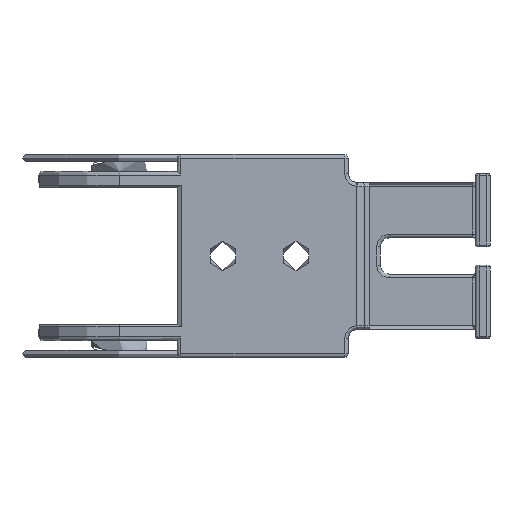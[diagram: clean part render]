
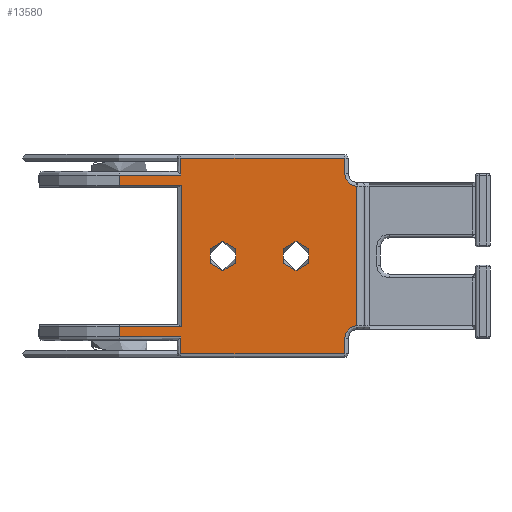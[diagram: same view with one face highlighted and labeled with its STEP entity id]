
A CAD part, front view. The second image highlights one B-rep face of the part: STEP entity #13580.
In plain terms, the highlighted planar face has unit normal (0, -1, 0).
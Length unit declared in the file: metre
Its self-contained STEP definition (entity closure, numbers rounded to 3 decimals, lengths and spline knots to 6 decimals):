
#333=CARTESIAN_POINT('',(-0.02226,-0.007565,0.040494));
#334=VERTEX_POINT('',#333);
#508=CARTESIAN_POINT('',(0.003645,-0.007565,0.041741));
#509=VERTEX_POINT('',#508);
#534=CARTESIAN_POINT('',(0.003645,-0.007565,0.056947));
#535=VERTEX_POINT('',#534);
#538=CARTESIAN_POINT('',(0.003645,-0.007565,0.041844));
#539=DIRECTION('',(0.,0.,-1.));
#540=VECTOR('',#539,1.);
#541=LINE('',#538,#540);
#542=EDGE_CURVE('',#535,#509,#541,.T.);
#991=CARTESIAN_POINT('',(-0.01226,-0.007565,0.041844));
#992=DIRECTION('',(0.,1.,0.));
#993=DIRECTION('',(0.,0.,1.));
#994=AXIS2_PLACEMENT_3D('',#991,#992,#993);
#995=PLANE('',#994);
#4160=CARTESIAN_POINT('',(0.00234,-0.007565,0.040344));
#4161=VERTEX_POINT('',#4160);
#4172=CARTESIAN_POINT('',(0.00374,-0.007565,0.040344));
#4173=DIRECTION('',(0.,1.,0.));
#4174=DIRECTION('',(0.,0.,1.));
#4175=AXIS2_PLACEMENT_3D('',#4172,#4173,#4174);
#4176=CIRCLE('',#4175,0.0014);
#4177=EDGE_CURVE('',#4161,#509,#4176,.T.);
#4200=CARTESIAN_POINT('',(0.00234,-0.007565,0.038644));
#4201=VERTEX_POINT('',#4200);
#4213=CARTESIAN_POINT('',(0.00234,-0.007565,0.040344));
#4214=DIRECTION('',(0.,0.,1.));
#4215=VECTOR('',#4214,1.);
#4216=LINE('',#4213,#4215);
#4217=EDGE_CURVE('',#4201,#4161,#4216,.T.);
#4696=CARTESIAN_POINT('',(-0.01556,-0.007565,0.038644));
#4697=VERTEX_POINT('',#4696);
#4700=CARTESIAN_POINT('',(-0.01556,-0.007565,0.041844));
#4701=DIRECTION('',(0.,0.,-1.));
#4702=VECTOR('',#4701,1.);
#4703=LINE('',#4700,#4702);
#4704=CARTESIAN_POINT('',(-0.01556,-0.007565,0.040494));
#4705=VERTEX_POINT('',#4704);
#4706=EDGE_CURVE('',#4705,#4697,#4703,.T.);
#4757=CARTESIAN_POINT('',(-0.01226,-0.007565,0.038644));
#4758=DIRECTION('',(-1.,0.,0.));
#4759=VECTOR('',#4758,1.);
#4760=LINE('',#4757,#4759);
#4761=EDGE_CURVE('',#4201,#4697,#4760,.T.);
#11420=CARTESIAN_POINT('',(-0.01596,-0.007565,0.040494));
#11421=DIRECTION('',(-1.,0.,0.));
#11422=VECTOR('',#11421,1.);
#11423=LINE('',#11420,#11422);
#11424=EDGE_CURVE('',#4705,#334,#11423,.T.);
#12182=CARTESIAN_POINT('',(-0.01546,-0.007565,0.041594));
#12183=VERTEX_POINT('',#12182);
#12186=CARTESIAN_POINT('',(-0.01546,-0.007565,0.041844));
#12187=DIRECTION('',(0.,0.,-1.));
#12188=VECTOR('',#12187,1.);
#12189=LINE('',#12186,#12188);
#12190=CARTESIAN_POINT('',(-0.01546,-0.007565,0.057094));
#12191=VERTEX_POINT('',#12190);
#12192=EDGE_CURVE('',#12191,#12183,#12189,.T.);
#12223=CARTESIAN_POINT('',(-0.02226,-0.007565,0.057094));
#12224=VERTEX_POINT('',#12223);
#12236=CARTESIAN_POINT('',(-0.01226,-0.007565,0.057094));
#12237=DIRECTION('',(1.,0.,0.));
#12238=VECTOR('',#12237,1.);
#12239=LINE('',#12236,#12238);
#12240=EDGE_CURVE('',#12224,#12191,#12239,.T.);
#12294=CARTESIAN_POINT('',(-0.02226,-0.007565,0.060444));
#12295=DIRECTION('',(0.,0.,-1.));
#12296=VECTOR('',#12295,1.);
#12297=LINE('',#12294,#12296);
#12298=CARTESIAN_POINT('',(-0.02226,-0.007565,0.058194));
#12299=VERTEX_POINT('',#12298);
#12300=EDGE_CURVE('',#12299,#12224,#12297,.T.);
#12450=CARTESIAN_POINT('',(-0.02226,-0.007565,0.058194));
#12451=DIRECTION('',(1.,0.,0.));
#12452=VECTOR('',#12451,1.);
#12453=LINE('',#12450,#12452);
#12454=CARTESIAN_POINT('',(-0.01556,-0.007565,0.058194));
#12455=VERTEX_POINT('',#12454);
#12456=EDGE_CURVE('',#12299,#12455,#12453,.T.);
#12488=CARTESIAN_POINT('',(-0.01556,-0.007565,0.041844));
#12489=DIRECTION('',(0.,0.,1.));
#12490=VECTOR('',#12489,1.);
#12491=LINE('',#12488,#12490);
#12492=CARTESIAN_POINT('',(-0.01556,-0.007565,0.060044));
#12493=VERTEX_POINT('',#12492);
#12494=EDGE_CURVE('',#12455,#12493,#12491,.T.);
#12537=CARTESIAN_POINT('',(-0.01596,-0.007565,0.060044));
#12538=DIRECTION('',(1.,0.,0.));
#12539=VECTOR('',#12538,1.);
#12540=LINE('',#12537,#12539);
#12541=CARTESIAN_POINT('',(0.00234,-0.007565,0.060044));
#12542=VERTEX_POINT('',#12541);
#12543=EDGE_CURVE('',#12493,#12542,#12540,.T.);
#13388=CARTESIAN_POINT('',(-0.01096,-0.007565,0.049344));
#13389=DIRECTION('',(0.,1.,0.));
#13390=DIRECTION('',(0.,0.,1.));
#13391=AXIS2_PLACEMENT_3D('',#13388,#13389,#13390);
#13392=CIRCLE('',#13391,0.0016);
#13393=CARTESIAN_POINT('',(-0.01096,-0.007565,0.047744));
#13394=VERTEX_POINT('',#13393);
#13395=EDGE_CURVE('',#13394,#13394,#13392,.T.);
#13511=CARTESIAN_POINT('',(-0.00296,-0.007565,0.049344));
#13512=DIRECTION('',(0.,1.,0.));
#13513=DIRECTION('',(0.,0.,1.));
#13514=AXIS2_PLACEMENT_3D('',#13511,#13512,#13513);
#13515=CIRCLE('',#13514,0.0016);
#13516=CARTESIAN_POINT('',(-0.00296,-0.007565,0.047744));
#13517=VERTEX_POINT('',#13516);
#13518=EDGE_CURVE('',#13517,#13517,#13515,.T.);
#13531=ORIENTED_EDGE('',*,*,#13518,.T.);
#13532=EDGE_LOOP('',(#13531));
#13533=FACE_BOUND('',#13532,.T.);
#13534=ORIENTED_EDGE('',*,*,#13395,.T.);
#13535=EDGE_LOOP('',(#13534));
#13536=FACE_BOUND('',#13535,.T.);
#13537=ORIENTED_EDGE('',*,*,#12192,.T.);
#13538=CARTESIAN_POINT('',(-0.02226,-0.007565,0.041594));
#13539=DIRECTION('',(1.,0.,0.));
#13540=VECTOR('',#13539,1.);
#13541=LINE('',#13538,#13540);
#13542=CARTESIAN_POINT('',(-0.02226,-0.007565,0.041594));
#13543=VERTEX_POINT('',#13542);
#13544=EDGE_CURVE('',#13543,#12183,#13541,.T.);
#13545=ORIENTED_EDGE('',*,*,#13544,.F.);
#13546=CARTESIAN_POINT('',(-0.02226,-0.007565,0.041844));
#13547=DIRECTION('',(0.,0.,-1.));
#13548=VECTOR('',#13547,1.);
#13549=LINE('',#13546,#13548);
#13550=EDGE_CURVE('',#13543,#334,#13549,.T.);
#13551=ORIENTED_EDGE('',*,*,#13550,.T.);
#13552=ORIENTED_EDGE('',*,*,#11424,.F.);
#13553=ORIENTED_EDGE('',*,*,#4706,.T.);
#13554=ORIENTED_EDGE('',*,*,#4761,.F.);
#13555=ORIENTED_EDGE('',*,*,#4217,.T.);
#13556=ORIENTED_EDGE('',*,*,#4177,.T.);
#13557=ORIENTED_EDGE('',*,*,#542,.F.);
#13558=CARTESIAN_POINT('',(0.00374,-0.007565,0.058344));
#13559=DIRECTION('',(0.,1.,0.));
#13560=DIRECTION('',(0.,0.,1.));
#13561=AXIS2_PLACEMENT_3D('',#13558,#13559,#13560);
#13562=CIRCLE('',#13561,0.0014);
#13563=CARTESIAN_POINT('',(0.00234,-0.007565,0.058344));
#13564=VERTEX_POINT('',#13563);
#13565=EDGE_CURVE('',#535,#13564,#13562,.T.);
#13566=ORIENTED_EDGE('',*,*,#13565,.T.);
#13567=CARTESIAN_POINT('',(0.00234,-0.007565,0.060044));
#13568=DIRECTION('',(0.,0.,1.));
#13569=VECTOR('',#13568,1.);
#13570=LINE('',#13567,#13569);
#13571=EDGE_CURVE('',#13564,#12542,#13570,.T.);
#13572=ORIENTED_EDGE('',*,*,#13571,.T.);
#13573=ORIENTED_EDGE('',*,*,#12543,.F.);
#13574=ORIENTED_EDGE('',*,*,#12494,.F.);
#13575=ORIENTED_EDGE('',*,*,#12456,.F.);
#13576=ORIENTED_EDGE('',*,*,#12300,.T.);
#13577=ORIENTED_EDGE('',*,*,#12240,.T.);
#13578=EDGE_LOOP('',(#13537,#13545,#13551,#13552,#13553,#13554,#13555,#13556,#13557,#13566,#13572,#13573,#13574,#13575,#13576,#13577));
#13579=FACE_BOUND('',#13578,.T.);
#13580=ADVANCED_FACE('',(#13533,#13536,#13579),#995,.F.);
